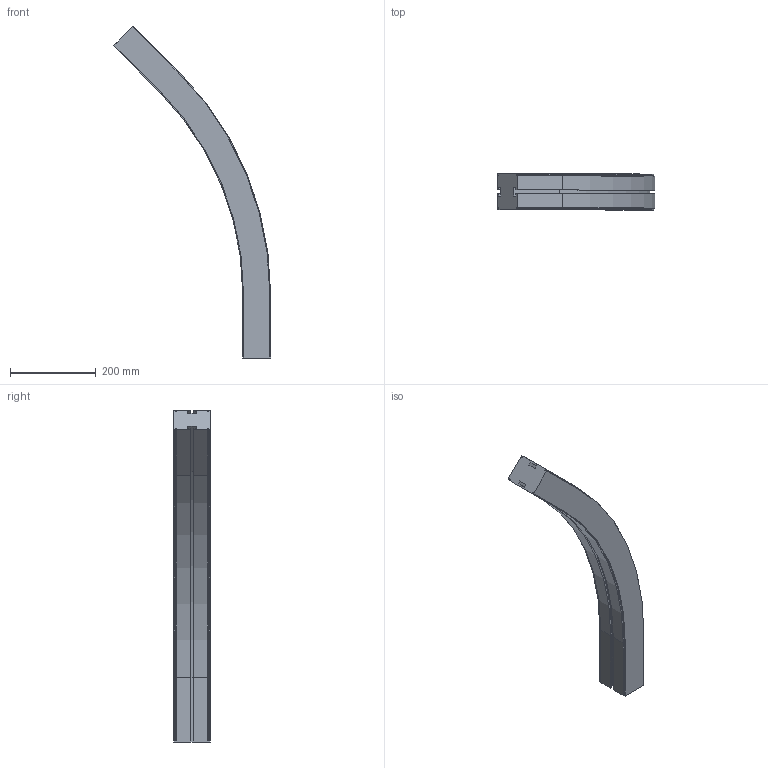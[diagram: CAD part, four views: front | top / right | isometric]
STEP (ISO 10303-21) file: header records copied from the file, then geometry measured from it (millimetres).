
FILE_DESCRIPTION (( 'STEP AP214' ), '1' );
FILE_NAME ('CS SL Horizontaalbocht.65 45° R700.STEP', '2017-02-08T07:35:27', ( '' ), ( '' ), 'SwSTEP 2.0', 'SolidWorks 2016', '' );
FILE_SCHEMA (( 'AUTOMOTIVE_DESIGN' ));
Length unit declared in the file: millimetre
Products named in the file (1): CS SL Horizontaalbocht.65 45° R700
Bounding box: 366.57 x 84 x 774.02 mm (x, y, z)
Volume: 4295317 mm3; surface area: 353385.7 mm2
Topology: 1 solids, 1 shells, 98 faces, 272 edges, 176 vertices
Faces by surface type: plane 72, cylinder 18, cone 8
Entity records: 3126 total; most frequent: CARTESIAN_POINT 547, ORIENTED_EDGE 544, DIRECTION 514, EDGE_CURVE 272, LINE 228, VECTOR 228, VERTEX_POINT 176, AXIS2_PLACEMENT_3D 143
